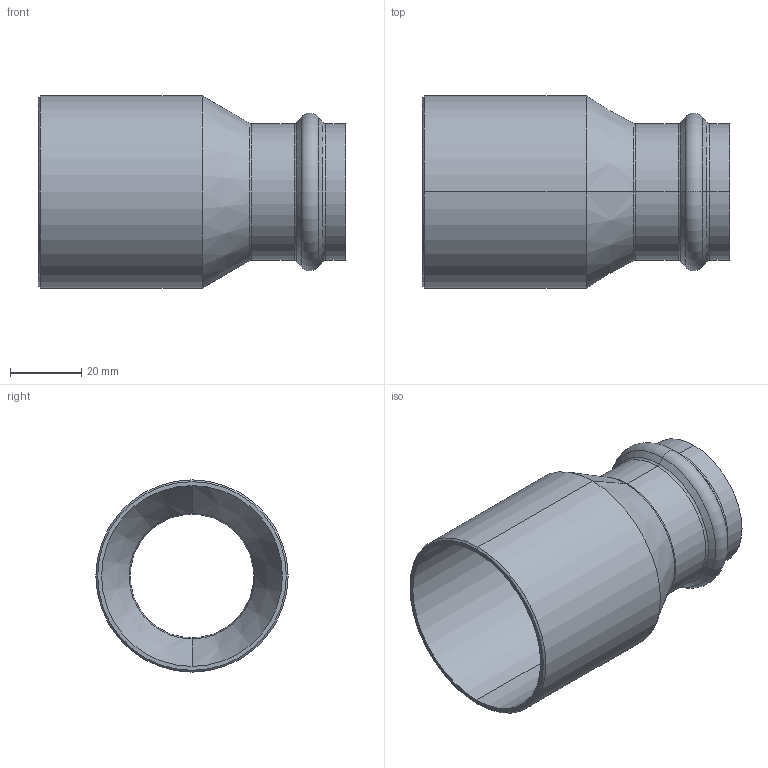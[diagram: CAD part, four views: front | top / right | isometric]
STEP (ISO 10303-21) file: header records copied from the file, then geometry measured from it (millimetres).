
FILE_DESCRIPTION (( 'STEP AP203' ), '1' );
FILE_NAME ('SP5243 54-35.STEP', '2017-04-24T09:12:01', ( '' ), ( '' ), 'SwSTEP 2.0', 'SolidWorks 2016', '' );
FILE_SCHEMA (( 'CONFIG_CONTROL_DESIGN' ));
Length unit declared in the file: millimetre
Products named in the file (1): SP5243 54-35
Bounding box: 86.25 x 54 x 54 mm (x, y, z)
Volume: 20846.6 mm3; surface area: 26810.6 mm2
Topology: 1 solids, 1 shells, 48 faces, 96 edges, 50 vertices
Faces by surface type: torus 18, cone 16, cylinder 12, plane 2
Entity records: 1313 total; most frequent: DIRECTION 262, CARTESIAN_POINT 195, ORIENTED_EDGE 192, AXIS2_PLACEMENT_3D 117, EDGE_CURVE 96, CIRCLE 68, VERTEX_POINT 50, EDGE_LOOP 50
